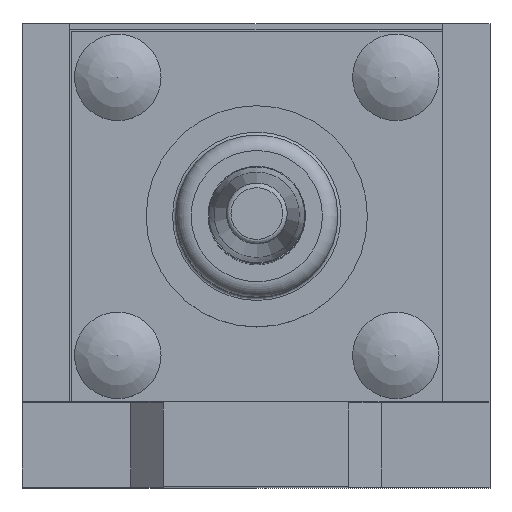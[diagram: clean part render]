
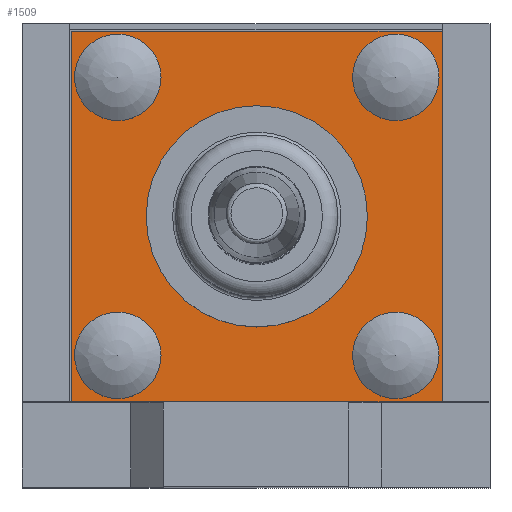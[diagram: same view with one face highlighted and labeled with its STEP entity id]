
A CAD part, top view. The second image highlights one B-rep face of the part: STEP entity #1509.
In plain terms, the highlighted planar face has unit normal (0, 0, 1).
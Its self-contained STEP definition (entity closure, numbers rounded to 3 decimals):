
#1301=CARTESIAN_POINT('',(-6.5,9.,0.));
#1302=VERTEX_POINT('',#1301);
#1303=CARTESIAN_POINT('',(-9.0,9.,0.0));
#1304=DIRECTION('',(0.0,0.0,1.0));
#1305=DIRECTION('',(-1.0,0.0,0.0));
#1306=AXIS2_PLACEMENT_3D('',#1303,#1304,#1305);
#1307=CIRCLE('',#1306,2.5);
#1308=EDGE_CURVE('',#1302,#1302,#1307,.T.);
#1358=CARTESIAN_POINT('',(11.5,9.,0.));
#1359=VERTEX_POINT('',#1358);
#1360=CARTESIAN_POINT('',(9.,9.,0.0));
#1361=DIRECTION('',(0.0,0.0,1.0));
#1362=DIRECTION('',(-1.0,0.0,0.0));
#1363=AXIS2_PLACEMENT_3D('',#1360,#1361,#1362);
#1364=CIRCLE('',#1363,2.5);
#1365=EDGE_CURVE('',#1359,#1359,#1364,.T.);
#1415=CARTESIAN_POINT('',(-6.5,-9.,0.));
#1416=VERTEX_POINT('',#1415);
#1417=CARTESIAN_POINT('',(-9.,-9.,0.0));
#1418=DIRECTION('',(0.0,0.0,1.0));
#1419=DIRECTION('',(-1.0,0.0,0.0));
#1420=AXIS2_PLACEMENT_3D('',#1417,#1418,#1419);
#1421=CIRCLE('',#1420,2.5);
#1422=EDGE_CURVE('',#1416,#1416,#1421,.T.);
#1439=CARTESIAN_POINT('',(0.0,0.,0.0));
#1440=DIRECTION('',(0.0,0.0,1.0));
#1441=DIRECTION('',(1.0,0.0,0.0));
#1442=AXIS2_PLACEMENT_3D('',#1439,#1440,#1441);
#1443=PLANE('',#1442);
#1444=CARTESIAN_POINT('',(-12.,-12.,0.0));
#1445=VERTEX_POINT('',#1444);
#1446=CARTESIAN_POINT('',(12.,-12.,0.0));
#1447=VERTEX_POINT('',#1446);
#1448=CARTESIAN_POINT('',(-12.,-12.,0.0));
#1449=DIRECTION('',(1.0,0.0,0.0));
#1450=VECTOR('',#1449,24.);
#1451=LINE('',#1448,#1450);
#1452=EDGE_CURVE('',#1445,#1447,#1451,.T.);
#1453=ORIENTED_EDGE('',*,*,#1452,.T.);
#1454=CARTESIAN_POINT('',(12.,12.,0.0));
#1455=VERTEX_POINT('',#1454);
#1456=CARTESIAN_POINT('',(12.,-12.,0.0));
#1457=DIRECTION('',(0.0,1.0,0.0));
#1458=VECTOR('',#1457,24.);
#1459=LINE('',#1456,#1458);
#1460=EDGE_CURVE('',#1447,#1455,#1459,.T.);
#1461=ORIENTED_EDGE('',*,*,#1460,.T.);
#1462=CARTESIAN_POINT('',(-12.,12.,0.0));
#1463=VERTEX_POINT('',#1462);
#1464=CARTESIAN_POINT('',(12.,12.,0.0));
#1465=DIRECTION('',(-1.0,0.0,0.0));
#1466=VECTOR('',#1465,24.);
#1467=LINE('',#1464,#1466);
#1468=EDGE_CURVE('',#1455,#1463,#1467,.T.);
#1469=ORIENTED_EDGE('',*,*,#1468,.T.);
#1470=CARTESIAN_POINT('',(-12.,12.,0.0));
#1471=DIRECTION('',(0.0,-1.0,0.0));
#1472=VECTOR('',#1471,24.);
#1473=LINE('',#1470,#1472);
#1474=EDGE_CURVE('',#1463,#1445,#1473,.T.);
#1475=ORIENTED_EDGE('',*,*,#1474,.T.);
#1476=EDGE_LOOP('',(#1453,#1461,#1469,#1475));
#1477=FACE_OUTER_BOUND('',#1476,.T.);
#1478=CARTESIAN_POINT('',(11.5,-9.,0.));
#1479=VERTEX_POINT('',#1478);
#1480=CARTESIAN_POINT('',(9.,-9.,0.0));
#1481=DIRECTION('',(0.0,0.0,1.0));
#1482=DIRECTION('',(-1.0,0.0,0.0));
#1483=AXIS2_PLACEMENT_3D('',#1480,#1481,#1482);
#1484=CIRCLE('',#1483,2.5);
#1485=EDGE_CURVE('',#1479,#1479,#1484,.T.);
#1486=ORIENTED_EDGE('',*,*,#1485,.F.);
#1487=EDGE_LOOP('',(#1486));
#1488=FACE_BOUND('',#1487,.T.);
#1489=CARTESIAN_POINT('',(0.0,7.163,0.));
#1490=VERTEX_POINT('',#1489);
#1491=CARTESIAN_POINT('',(0.0,0.,0.0));
#1492=DIRECTION('',(0.0,0.0,-1.0));
#1493=DIRECTION('',(0.0,1.0,0.0));
#1494=AXIS2_PLACEMENT_3D('',#1491,#1492,#1493);
#1495=CIRCLE('',#1494,7.163);
#1496=EDGE_CURVE('',#1490,#1490,#1495,.T.);
#1497=ORIENTED_EDGE('',*,*,#1496,.T.);
#1498=EDGE_LOOP('',(#1497));
#1499=FACE_BOUND('',#1498,.T.);
#1500=ORIENTED_EDGE('',*,*,#1422,.F.);
#1501=EDGE_LOOP('',(#1500));
#1502=FACE_BOUND('',#1501,.T.);
#1503=ORIENTED_EDGE('',*,*,#1365,.F.);
#1504=EDGE_LOOP('',(#1503));
#1505=FACE_BOUND('',#1504,.T.);
#1506=ORIENTED_EDGE('',*,*,#1308,.F.);
#1507=EDGE_LOOP('',(#1506));
#1508=FACE_BOUND('',#1507,.T.);
#1509=ADVANCED_FACE('',(#1477,#1488,#1499,#1502,#1505,#1508),#1443,.T.);
